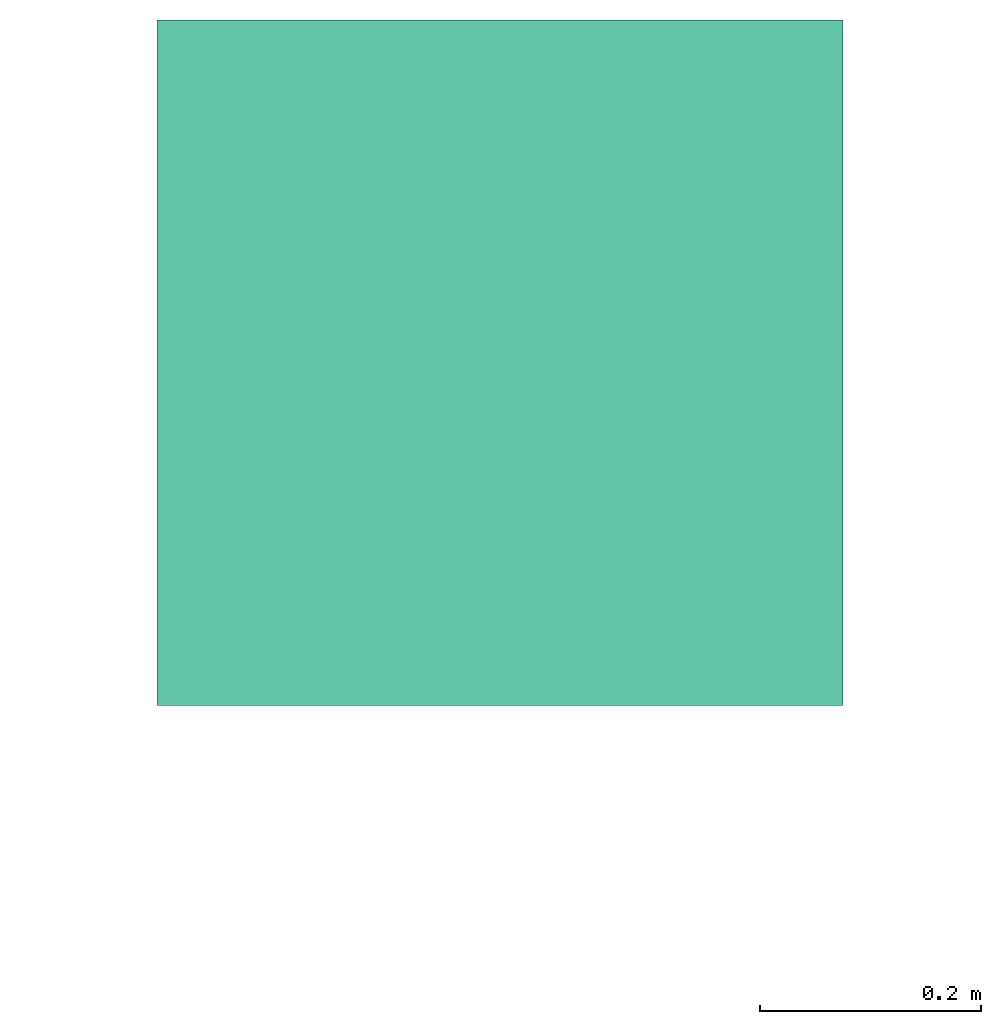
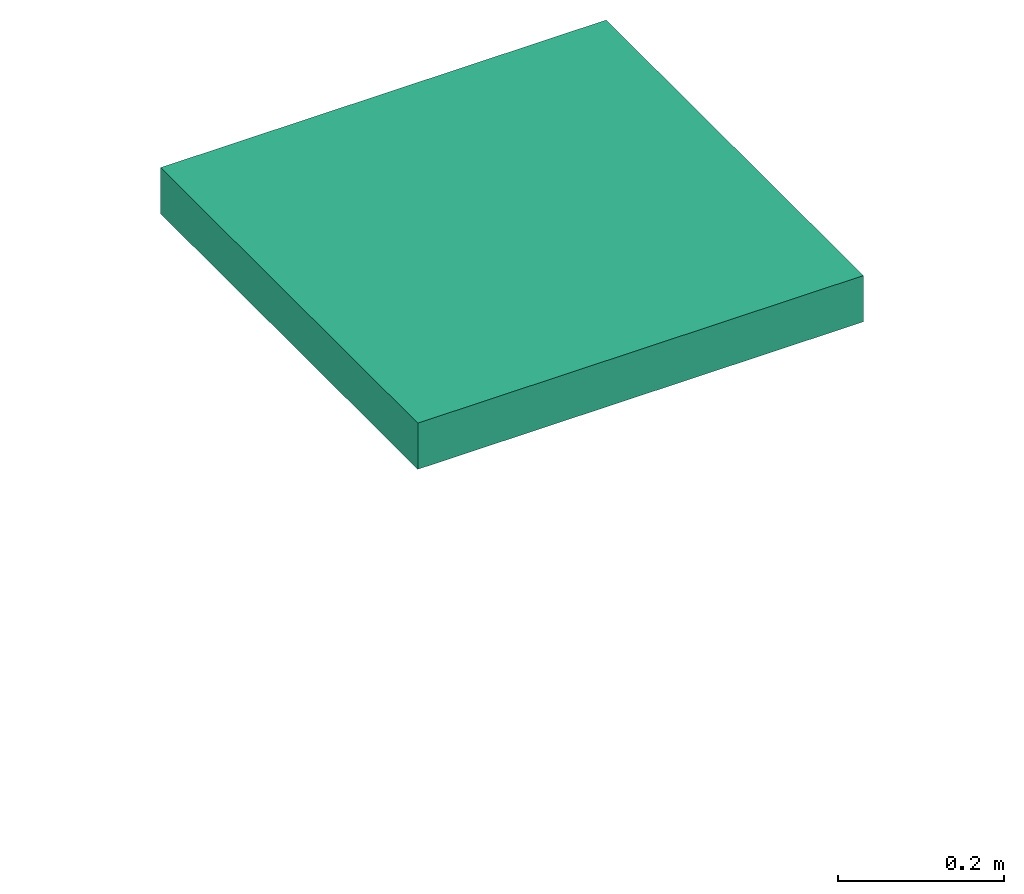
# One storey, part 4 of 4: 1 light fixture.
"""IFC4 building model written with IfcOpenShell, lengths in metres."""

import ifcopenshell
import ifcopenshell.guid

model = None  # the IFC model being written
_history = None  # IfcOwnerHistory: only IFC2X3 demands one
_inside = {}  # id of a spatial element -> (the spatial element, [elements in it])
_under = {}  # id of a project, library or spatial element -> (it, [spatial elements below it])
_declared = {}  # id of a project -> (the project, [libraries it declares])
_typed = {}  # id of a type object -> (the type object, [elements of that type])
_made_of = {}  # id of a material, layer set ... -> (it, [elements and type objects made of it])


def new_model(schema):
    """Start an empty IFC model of exactly this schema.

    Asked for "IFC4X3", IfcOpenShell would pick the latest addendum, in which some entities
    have other attributes; the version numbers below select the first issue.
    IFC2X3 requires an IfcOwnerHistory on every rooted entity: one is made here for all.
    """
    global model, _history
    if schema == "IFC4X3":
        model = ifcopenshell.file(schema_version=(4, 3, 0, 0))
    else:
        model = ifcopenshell.file(schema=schema)
    _inside.clear()
    _under.clear()
    _declared.clear()
    _typed.clear()
    _made_of.clear()
    _history = None
    if model.schema == "IFC2X3":
        org = make("IfcOrganization", Name="unknown")
        user = make(
            "IfcPersonAndOrganization",
            ThePerson=make("IfcPerson", FamilyName="unknown"),
            TheOrganization=org,
        )
        app = make(
            "IfcApplication",
            ApplicationDeveloper=org,
            Version="unknown",
            ApplicationFullName="unknown",
            ApplicationIdentifier="unknown",
        )
        _history = make(
            "IfcOwnerHistory",
            OwningUser=user,
            OwningApplication=app,
            ChangeAction="ADDED",
            CreationDate=0,
        )
    return model


def make(cls, **values):
    """One entity of the class cls with the attributes given. An attribute that is None is left unset."""
    return model.create_entity(
        cls, **{name: value for name, value in values.items() if value is not None}
    )


def entity(cls, *values):
    """Any entity or typed value of the class cls, its attributes in the order of the schema. None: left unset."""
    e = model.create_entity(cls)
    for i, value in enumerate(values):
        if value is not None:
            e[i] = value
    return e


def rooted(cls, **values):
    """An entity with a GlobalId (a new one), such as an element, a storey or a relation."""
    return make(cls, GlobalId=ifcopenshell.guid.new(), OwnerHistory=_history, **values)


def si_unit(unit_type, name, prefix=None):
    """IfcSIUnit, for example si_unit("LENGTHUNIT", "METRE", prefix="MILLI")."""
    return make("IfcSIUnit", UnitType=unit_type, Prefix=prefix, Name=name)


def converted_unit(unit_type, name, factor, base, dimensions=None, offset=None):
    """IfcConversionBasedUnit, such as the inch: factor (a typed value) times the base unit."""
    return make(
        "IfcConversionBasedUnit"
        if offset is None
        else "IfcConversionBasedUnitWithOffset",
        ConversionOffset=offset,
        Dimensions=None
        if dimensions is None
        else entity("IfcDimensionalExponents", *dimensions),
        UnitType=unit_type,
        Name=name,
        ConversionFactor=make(
            "IfcMeasureWithUnit", ValueComponent=factor, UnitComponent=base
        ),
    )


def derived_unit(unit_type, elements):
    """IfcDerivedUnit: a product of units, each with its exponent."""
    return make(
        "IfcDerivedUnit",
        Elements=[
            make("IfcDerivedUnitElement", Unit=unit, Exponent=power)
            for unit, power in elements
        ],
        UnitType=unit_type,
    )


def assignment(units):
    """IfcUnitAssignment: the units of a project."""
    return None if units is None else make("IfcUnitAssignment", Units=units)


def point(xyz):
    """IfcCartesianPoint."""
    return None if xyz is None else make("IfcCartesianPoint", Coordinates=xyz)


def direction(xyz):
    """IfcDirection."""
    return None if xyz is None else make("IfcDirection", DirectionRatios=xyz)


def frame(location, z_axis=None, x_axis=None):
    """IfcAxis2Placement3D, a coordinate frame: its origin and axes. An axis left out is left unset."""
    return make(
        "IfcAxis2Placement3D",
        Location=point(location),
        Axis=direction(z_axis),
        RefDirection=direction(x_axis),
    )


def origin():
    """The frame at (0, 0, 0) with its axes left unset."""
    return frame((0.0, 0.0, 0.0))


def place(relative_to, where):
    """IfcLocalPlacement: puts the frame where relative to a parent placement (None: the world)."""
    return make(
        "IfcLocalPlacement", PlacementRelTo=relative_to, RelativePlacement=where
    )


def context(
    kind, dimensions, precision=None, world=None, true_north=None, identifier=None
):
    """IfcGeometricRepresentationContext, for example the 3D "Model" context."""
    return make(
        "IfcGeometricRepresentationContext",
        ContextIdentifier=identifier,
        ContextType=kind,
        CoordinateSpaceDimension=dimensions,
        Precision=precision,
        WorldCoordinateSystem=world,
        TrueNorth=true_north,
    )


def subcontext(parent, identifier, kind, view, scale=None):
    """IfcGeometricRepresentationSubContext, for example "Body" below "Model"."""
    return make(
        "IfcGeometricRepresentationSubContext",
        ContextIdentifier=identifier,
        ContextType=kind,
        ParentContext=parent,
        TargetScale=scale,
        TargetView=view,
    )


def project(units=None, contexts=None):
    """IfcProject with its units and contexts."""
    return rooted(
        "IfcProject",
        Name="project",
        RepresentationContexts=contexts,
        UnitsInContext=assignment(units),
    )


def spatial(cls, under=None, at=None, **own):
    """A site, building, storey or space (cls), placed at a placement, below another one or the project."""
    s = rooted(cls, ObjectPlacement=at, **own)
    if under is not None:
        _under.setdefault(under.id(), (under, []))[1].append(s)
    return s


def point_list(points):
    """IfcCartesianPointList2D or 3D."""
    cls = (
        "IfcCartesianPointList2D" if len(points[0]) == 2 else "IfcCartesianPointList3D"
    )
    return make(cls, CoordList=points)


def indexed_curve(points, segments=None, self_intersect=None):
    """IfcIndexedPolyCurve: lines and arcs through numbered points (the first is 1)."""
    return make(
        "IfcIndexedPolyCurve",
        Points=point_list(points),
        Segments=segments,
        SelfIntersect=self_intersect,
    )


def outline(outer, holes=None, kind="AREA"):
    """IfcArbitraryClosedProfileDef: a profile drawn as a closed curve; with holes, ...WithVoids."""
    if holes is None:
        return make("IfcArbitraryClosedProfileDef", ProfileType=kind, OuterCurve=outer)
    return make(
        "IfcArbitraryProfileDefWithVoids",
        ProfileType=kind,
        OuterCurve=outer,
        InnerCurves=holes,
    )


def extrude(swept, where, along, depth):
    """IfcExtrudedAreaSolid: the profile swept, set in the frame where, extruded along a direction by depth."""
    return make(
        "IfcExtrudedAreaSolid",
        SweptArea=swept,
        Position=where,
        ExtrudedDirection=direction(along),
        Depth=depth,
    )


def shape(context_of_items, identifier, shape_type, items):
    """IfcShapeRepresentation: the items that make up one representation, for example the "Body"."""
    return make(
        "IfcShapeRepresentation",
        ContextOfItems=context_of_items,
        RepresentationIdentifier=identifier,
        RepresentationType=shape_type,
        Items=items,
    )


def source(mapping_origin, context_of_items, identifier, shape_type, items):
    """IfcRepresentationMap: a shape defined once, which mapped items show again and again."""
    return make(
        "IfcRepresentationMap",
        MappingOrigin=mapping_origin,
        MappedRepresentation=shape(context_of_items, identifier, shape_type, items),
    )


def transform(
    local_origin,
    x_axis=None,
    y_axis=None,
    z_axis=None,
    scale=None,
    scale2=None,
    scale3=None,
    uniform=True,
):
    """IfcCartesianTransformationOperator3D, or its non-uniform kind. x_axis, y_axis, z_axis: its Axis1, 2, 3."""
    if uniform:
        return make(
            "IfcCartesianTransformationOperator3D",
            Axis1=direction(x_axis),
            Axis2=direction(y_axis),
            LocalOrigin=point(local_origin),
            Scale=scale,
            Axis3=direction(z_axis),
        )
    return make(
        "IfcCartesianTransformationOperator3DnonUniform",
        Axis1=direction(x_axis),
        Axis2=direction(y_axis),
        LocalOrigin=point(local_origin),
        Scale=scale,
        Axis3=direction(z_axis),
        Scale2=scale2,
        Scale3=scale3,
    )


def mapped(mapping_source, mapping_target):
    """IfcMappedItem: shows the shape of a source again, moved by a transform."""
    return make(
        "IfcMappedItem", MappingSource=mapping_source, MappingTarget=mapping_target
    )


def material(Name=None, Category=None):
    """IfcMaterial."""
    return make("IfcMaterial", Name=Name, Category=Category)


def constituent(of_material, Name=None, Category=None, fraction=None):
    """IfcMaterialConstituent: one of the materials an element consists of."""
    return make(
        "IfcMaterialConstituent",
        Name=Name,
        Material=of_material,
        Fraction=fraction,
        Category=Category,
    )


def constituent_set(constituents=None, Name=None):
    """IfcMaterialConstituentSet."""
    return make(
        "IfcMaterialConstituentSet", Name=Name, MaterialConstituents=constituents
    )


def made_of(thing, what):
    """Note that an element or type object is made of a material, layer set ...; save() writes the relation."""
    if what is not None:
        _made_of.setdefault(what.id(), (what, []))[1].append(thing)
    return thing


def type_object(cls, material=None, **own):
    """A type object (cls), such as IfcWallType, which elements share."""
    return made_of(rooted(cls, **own), material)


def type_shapes(of_type, sources):
    """Give a type object the sources (RepresentationMaps) that its elements show as mapped items."""
    of_type.RepresentationMaps = sources


def element(
    cls,
    number,
    at=None,
    inside=None,
    cuts=None,
    type_object=None,
    material=None,
    context=None,
    identifier="Body",
    shape_type=None,
    held_by="IfcProductDefinitionShape",
    body=None,
    shapes=None,
    **own,
):
    """One element of the class cls, such as IfcWall. Its Tag is "e" and its number.

    at: its placement. inside: the storey or other place that contains it. cuts: it is an
    opening in that element (IfcRelVoidsElement). A single representation is given by context,
    identifier, shape_type and body (its items); several are given by shapes. held_by: the class
    of the entity that holds the representations. save() writes the other relations.
    """
    e = rooted(cls, Tag="e%d" % number, ObjectPlacement=at, **own)
    if body is not None:
        shapes = [shape(context, identifier, shape_type, body)]
    if shapes is not None:
        e.Representation = make(held_by, Representations=shapes)
    if inside is not None:
        _inside.setdefault(inside.id(), (inside, []))[1].append(e)
    if cuts is not None:
        rooted(
            "IfcRelVoidsElement", RelatingBuildingElement=cuts, RelatedOpeningElement=e
        )
    if type_object is not None:
        _typed.setdefault(type_object.id(), (type_object, []))[1].append(e)
    return made_of(e, material)


def aggregate(whole, parts):
    """IfcRelAggregates: a whole, such as a stair, and the parts it consists of."""
    return rooted("IfcRelAggregates", RelatingObject=whole, RelatedObjects=parts)


def save(model, path):
    """Write the relations noted so far, then the file.

    IfcRelAggregates (storeys below a building ...), IfcRelContainedInSpatialStructure (elements
    in a storey), IfcRelDefinesByType, IfcRelAssociatesMaterial and IfcRelDeclares: one each for
    every whole, place, type object, material and project.
    """
    for whole, parts in _under.values():
        aggregate(whole, parts)
    for where, things in _inside.values():
        rooted(
            "IfcRelContainedInSpatialStructure",
            RelatedElements=things,
            RelatingStructure=where,
        )
    for kind, things in _typed.values():
        rooted("IfcRelDefinesByType", RelatedObjects=things, RelatingType=kind)
    for what, things in _made_of.values():
        rooted("IfcRelAssociatesMaterial", RelatedObjects=things, RelatingMaterial=what)
    for by, libraries in _declared.values():
        rooted("IfcRelDeclares", RelatingContext=by, RelatedDefinitions=libraries)
    model.write(path)


model = new_model("IFC4")

# Units and contexts
model_context = context("Model", 3, precision=1e-05, world=origin(), true_north=direction((6.123031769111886e-17, 1.0)))
body_context = subcontext(model_context, "Body", "Model", "MODEL_VIEW")
ifc_project = project(units=[si_unit("LENGTHUNIT", "METRE"), si_unit("AREAUNIT", "SQUARE_METRE"), si_unit("VOLUMEUNIT", "CUBIC_METRE"), converted_unit("PLANEANGLEUNIT", "DEGREE", entity("IfcRatioMeasure", 0.017453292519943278), si_unit("PLANEANGLEUNIT", "RADIAN"), dimensions=[0, 0, 0, 0, 0, 0, 0]), si_unit("MASSUNIT", "GRAM", prefix="KILO"), derived_unit("MASSDENSITYUNIT", [(si_unit("MASSUNIT", "GRAM", prefix="KILO"), 1), (si_unit("LENGTHUNIT", "METRE"), -3)]), derived_unit("MOMENTOFINERTIAUNIT", [(si_unit("LENGTHUNIT", "METRE"), 4)]), si_unit("TIMEUNIT", "SECOND"), si_unit("FREQUENCYUNIT", "HERTZ"), si_unit("THERMODYNAMICTEMPERATUREUNIT", "DEGREE_CELSIUS"), derived_unit("THERMALTRANSMITTANCEUNIT", [(si_unit("MASSUNIT", "GRAM", prefix="KILO"), 1), (si_unit("THERMODYNAMICTEMPERATUREUNIT", "KELVIN"), -1), (si_unit("TIMEUNIT", "SECOND"), -3)]), derived_unit("VOLUMETRICFLOWRATEUNIT", [(si_unit("LENGTHUNIT", "METRE"), 3), (si_unit("TIMEUNIT", "SECOND"), -1)]), derived_unit("MASSFLOWRATEUNIT", [(si_unit("MASSUNIT", "GRAM", prefix="KILO"), 1), (si_unit("TIMEUNIT", "SECOND"), -1)]), derived_unit("ROTATIONALFREQUENCYUNIT", [(si_unit("TIMEUNIT", "SECOND"), -1)]), si_unit("ELECTRICCURRENTUNIT", "AMPERE"), si_unit("ELECTRICVOLTAGEUNIT", "VOLT"), si_unit("POWERUNIT", "WATT"), si_unit("FORCEUNIT", "NEWTON", prefix="KILO"), si_unit("ILLUMINANCEUNIT", "LUX"), si_unit("LUMINOUSFLUXUNIT", "LUMEN"), si_unit("LUMINOUSINTENSITYUNIT", "CANDELA"), derived_unit("USERDEFINED", [(si_unit("MASSUNIT", "GRAM", prefix="KILO"), -1), (si_unit("LENGTHUNIT", "METRE"), -2), (si_unit("TIMEUNIT", "SECOND"), 3), (si_unit("LUMINOUSFLUXUNIT", "LUMEN"), 1)]), derived_unit("SOUNDPOWERUNIT", [(si_unit("MASSUNIT", "GRAM", prefix="KILO"), 1), (si_unit("LENGTHUNIT", "METRE"), 2), (si_unit("TIMEUNIT", "SECOND"), -3)]), derived_unit("SOUNDPRESSUREUNIT", [(si_unit("MASSUNIT", "GRAM", prefix="KILO"), 1), (si_unit("LENGTHUNIT", "METRE"), -1), (si_unit("TIMEUNIT", "SECOND"), -2)]), derived_unit("LINEARVELOCITYUNIT", [(si_unit("LENGTHUNIT", "METRE"), 1), (si_unit("TIMEUNIT", "SECOND"), -1)]), si_unit("PRESSUREUNIT", "PASCAL"), derived_unit("USERDEFINED", [(si_unit("LENGTHUNIT", "METRE"), -2), (si_unit("MASSUNIT", "GRAM", prefix="KILO"), 1), (si_unit("TIMEUNIT", "SECOND"), -2)]), derived_unit("LINEARFORCEUNIT", [(si_unit("MASSUNIT", "GRAM", prefix="KILO"), 1), (si_unit("LENGTHUNIT", "METRE"), 1), (si_unit("TIMEUNIT", "SECOND"), -2), (si_unit("LENGTHUNIT", "METRE"), -1)]), derived_unit("PLANARFORCEUNIT", [(si_unit("MASSUNIT", "GRAM", prefix="KILO"), 1), (si_unit("LENGTHUNIT", "METRE"), 1), (si_unit("TIMEUNIT", "SECOND"), -2), (si_unit("LENGTHUNIT", "METRE"), -2)])], contexts=[model_context])

# Site, building, storey
site_placement = place(None, origin())
site = spatial("IfcSite", under=ifc_project, at=site_placement, Name="Default", CompositionType="ELEMENT")
building_placement = place(site_placement, origin())
building = spatial("IfcBuilding", under=site, at=building_placement, CompositionType="ELEMENT")
storey_placement = place(building_placement, frame((0.0, 0.0, -0.63)))
storey = spatial("IfcBuildingStorey", under=building, at=storey_placement, Name="Arase inf longrines", CompositionType="ELEMENT", Elevation=-0.63)

# Light fixture
ifc_material_1 = material(Name="Materiał Przesłony PMMA LENA")
ifc_constituent_1 = constituent(ifc_material_1, Name="Materiał Przesłony PMMA LENA")
ifc_material_2 = material(Name="WHITE")
ifc_constituent_2 = constituent(ifc_material_2, Name="WHITE")
ifc_constituent_set_1 = constituent_set(constituents=[ifc_constituent_1, ifc_constituent_2], Name="MaterialConstituentSet")
ifc_constituent_3 = constituent(ifc_material_1, Name="Materiał Przesłony PMMA LENA")
ifc_constituent_4 = constituent(ifc_material_2, Name="WHITE")
ifc_constituent_set_2 = constituent_set(constituents=[ifc_constituent_3, ifc_constituent_4], Name="MaterialConstituentSet")
light_fixture_type = type_object("IfcLightFixtureType", Name="plafonnier led cfa type 2:497537 MADERA 3 LED LED 620X620MM 5200LM 840 IP44 PRM WHITE(41W)", PredefinedType="NOTDEFINED", material=ifc_constituent_set_2)
shared_shape = source(origin(), body_context, "Body", "SweptSolid", [
    extrude(outline(indexed_curve([(-0.2763000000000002, -0.27630000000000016), (0.2763000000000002, -0.27630000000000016), (0.2763000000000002, 0.27630000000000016), (-0.2763000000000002, 0.27630000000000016), (-0.2763000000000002, -0.27630000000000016)], self_intersect=False)), frame((0.0, 0.0, 0.0), z_axis=(0.0, 0.0, 1.0), x_axis=(-1.0, 0.0, 0.0)), (0.0, 0.0, 1.0), 0.066),
    extrude(outline(indexed_curve([(-0.31, -0.30999999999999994), (0.31, -0.30999999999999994), (0.31, 0.30999999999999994), (-0.31, 0.30999999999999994), (-0.31, -0.30999999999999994)], self_intersect=False), holes=[indexed_curve([(-0.27630000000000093, -0.2763000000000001), (-0.27630000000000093, 0.27630000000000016), (0.2762999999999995, 0.27630000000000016), (0.27629999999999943, -0.2763000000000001), (-0.27630000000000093, -0.2763000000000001)], self_intersect=False)]), frame((0.0, 0.0, 0.0), z_axis=(0.0, 0.0, 1.0), x_axis=(-1.0, 0.0, 0.0)), (0.0, 0.0, 1.0), 0.068),
])
type_shapes(light_fixture_type, [shared_shape])
light_fixture_placement = place(storey_placement, frame((12.141865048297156, 19.266487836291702, 0.63), z_axis=(0.0, 0.0, -1.0), x_axis=(1.0, 0.0, 0.0)))
element("IfcLightFixture", 1, at=light_fixture_placement, inside=storey, type_object=light_fixture_type, material=ifc_constituent_set_1, Name="plafonnier led cfa type 2:497537 MADERA 3 LED LED 620X620MM 5200LM 840 IP44 PRM WHITE(41W)", ObjectType="plafonnier led cfa type 2:497537 MADERA 3 LED LED 620X620MM 5200LM 840 IP44 PRM WHITE(41W)", PredefinedType="NOTDEFINED", context=body_context, shape_type="MappedRepresentation", body=[
    mapped(shared_shape, transform((0.0, 0.0, 0.0), scale=1.0)),
])

save(model, "model.ifc")
